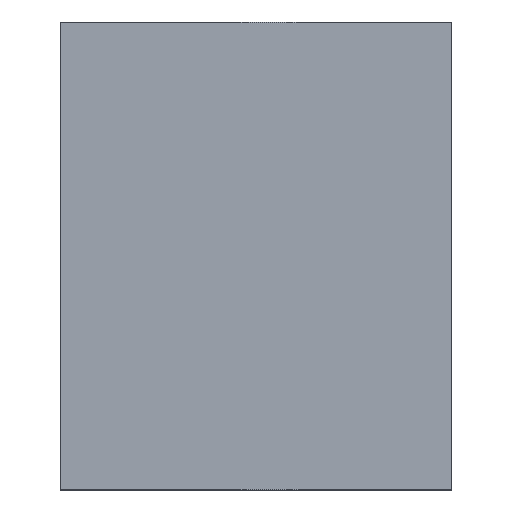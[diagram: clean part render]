
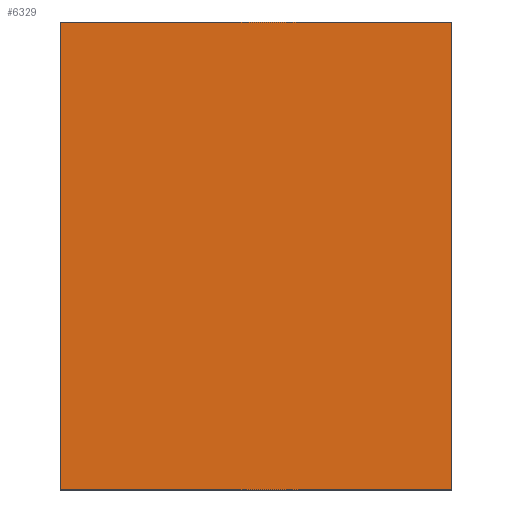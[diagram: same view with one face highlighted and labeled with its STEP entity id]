
A CAD part, front view. The second image highlights one B-rep face of the part: STEP entity #6329.
In plain terms, the highlighted planar face has unit normal (0, -1, 0).
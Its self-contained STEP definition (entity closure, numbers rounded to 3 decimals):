
#32 = PLANE('',#33);
#33 = AXIS2_PLACEMENT_3D('',#34,#35,#36);
#34 = CARTESIAN_POINT('',(0.,137.,0.));
#35 = DIRECTION('',(1.,0.,0.));
#36 = DIRECTION('',(0.,-1.,0.));
#1205 = VERTEX_POINT('',#1206);
#1206 = CARTESIAN_POINT('',(0.,0.,12.));
#1220 = PLANE('',#1221);
#1221 = AXIS2_PLACEMENT_3D('',#1222,#1223,#1224);
#1222 = CARTESIAN_POINT('',(0.,137.,12.));
#1223 = DIRECTION('',(0.,0.,1.));
#1224 = DIRECTION('',(0.,-1.,0.));
#1232 = EDGE_CURVE('',#1233,#1205,#1235,.T.);
#1233 = VERTEX_POINT('',#1234);
#1234 = CARTESIAN_POINT('',(0.,0.,0.));
#1235 = SURFACE_CURVE('',#1236,(#1240,#1247),.PCURVE_S1.);
#1236 = LINE('',#1237,#1238);
#1237 = CARTESIAN_POINT('',(0.,0.,0.));
#1238 = VECTOR('',#1239,1.);
#1239 = DIRECTION('',(0.,0.,1.));
#1240 = PCURVE('',#32,#1241);
#1241 = DEFINITIONAL_REPRESENTATION('',(#1242),#1246);
#1242 = LINE('',#1243,#1244);
#1243 = CARTESIAN_POINT('',(137.,0.));
#1244 = VECTOR('',#1245,1.);
#1245 = DIRECTION('',(0.,-1.));
#1246 = ( GEOMETRIC_REPRESENTATION_CONTEXT(2) 
PARAMETRIC_REPRESENTATION_CONTEXT() REPRESENTATION_CONTEXT('2D SPACE',''
  ) );
#1247 = PCURVE('',#1248,#1253);
#1248 = PLANE('',#1249);
#1249 = AXIS2_PLACEMENT_3D('',#1250,#1251,#1252);
#1250 = CARTESIAN_POINT('',(0.,0.,0.));
#1251 = DIRECTION('',(0.,-1.,0.));
#1252 = DIRECTION('',(1.,0.,0.));
#1253 = DEFINITIONAL_REPRESENTATION('',(#1254),#1258);
#1254 = LINE('',#1255,#1256);
#1255 = CARTESIAN_POINT('',(0.,0.));
#1256 = VECTOR('',#1257,1.);
#1257 = DIRECTION('',(0.,1.));
#1258 = ( GEOMETRIC_REPRESENTATION_CONTEXT(2) 
PARAMETRIC_REPRESENTATION_CONTEXT() REPRESENTATION_CONTEXT('2D SPACE',''
  ) );
#1276 = PLANE('',#1277);
#1277 = AXIS2_PLACEMENT_3D('',#1278,#1279,#1280);
#1278 = CARTESIAN_POINT('',(0.,137.,0.));
#1279 = DIRECTION('',(0.,0.,1.));
#1280 = DIRECTION('',(0.,-1.,0.));
#6241 = PLANE('',#6242);
#6242 = AXIS2_PLACEMENT_3D('',#6243,#6244,#6245);
#6243 = CARTESIAN_POINT('',(10.,137.,0.));
#6244 = DIRECTION('',(1.,0.,0.));
#6245 = DIRECTION('',(0.,-1.,0.));
#6285 = VERTEX_POINT('',#6286);
#6286 = CARTESIAN_POINT('',(10.,0.,0.));
#6309 = EDGE_CURVE('',#1233,#6285,#6310,.T.);
#6310 = SURFACE_CURVE('',#6311,(#6315,#6322),.PCURVE_S1.);
#6311 = LINE('',#6312,#6313);
#6312 = CARTESIAN_POINT('',(0.,0.,0.));
#6313 = VECTOR('',#6314,1.);
#6314 = DIRECTION('',(1.,0.,0.));
#6315 = PCURVE('',#1276,#6316);
#6316 = DEFINITIONAL_REPRESENTATION('',(#6317),#6321);
#6317 = LINE('',#6318,#6319);
#6318 = CARTESIAN_POINT('',(137.,0.));
#6319 = VECTOR('',#6320,1.);
#6320 = DIRECTION('',(0.,1.));
#6321 = ( GEOMETRIC_REPRESENTATION_CONTEXT(2) 
PARAMETRIC_REPRESENTATION_CONTEXT() REPRESENTATION_CONTEXT('2D SPACE',''
  ) );
#6322 = PCURVE('',#1248,#6323);
#6323 = DEFINITIONAL_REPRESENTATION('',(#6324),#6328);
#6324 = LINE('',#6325,#6326);
#6325 = CARTESIAN_POINT('',(0.,0.));
#6326 = VECTOR('',#6327,1.);
#6327 = DIRECTION('',(1.,0.));
#6328 = ( GEOMETRIC_REPRESENTATION_CONTEXT(2) 
PARAMETRIC_REPRESENTATION_CONTEXT() REPRESENTATION_CONTEXT('2D SPACE',''
  ) );
#6329 = ADVANCED_FACE('',(#6330),#1248,.T.);
#6330 = FACE_BOUND('',#6331,.T.);
#6331 = EDGE_LOOP('',(#6332,#6333,#6334,#6357));
#6332 = ORIENTED_EDGE('',*,*,#1232,.F.);
#6333 = ORIENTED_EDGE('',*,*,#6309,.T.);
#6334 = ORIENTED_EDGE('',*,*,#6335,.T.);
#6335 = EDGE_CURVE('',#6285,#6336,#6338,.T.);
#6336 = VERTEX_POINT('',#6337);
#6337 = CARTESIAN_POINT('',(10.,0.,12.));
#6338 = SURFACE_CURVE('',#6339,(#6343,#6350),.PCURVE_S1.);
#6339 = LINE('',#6340,#6341);
#6340 = CARTESIAN_POINT('',(10.,0.,0.));
#6341 = VECTOR('',#6342,1.);
#6342 = DIRECTION('',(0.,0.,1.));
#6343 = PCURVE('',#1248,#6344);
#6344 = DEFINITIONAL_REPRESENTATION('',(#6345),#6349);
#6345 = LINE('',#6346,#6347);
#6346 = CARTESIAN_POINT('',(10.,0.));
#6347 = VECTOR('',#6348,1.);
#6348 = DIRECTION('',(0.,1.));
#6349 = ( GEOMETRIC_REPRESENTATION_CONTEXT(2) 
PARAMETRIC_REPRESENTATION_CONTEXT() REPRESENTATION_CONTEXT('2D SPACE',''
  ) );
#6350 = PCURVE('',#6241,#6351);
#6351 = DEFINITIONAL_REPRESENTATION('',(#6352),#6356);
#6352 = LINE('',#6353,#6354);
#6353 = CARTESIAN_POINT('',(137.,0.));
#6354 = VECTOR('',#6355,1.);
#6355 = DIRECTION('',(0.,-1.));
#6356 = ( GEOMETRIC_REPRESENTATION_CONTEXT(2) 
PARAMETRIC_REPRESENTATION_CONTEXT() REPRESENTATION_CONTEXT('2D SPACE',''
  ) );
#6357 = ORIENTED_EDGE('',*,*,#6358,.F.);
#6358 = EDGE_CURVE('',#1205,#6336,#6359,.T.);
#6359 = SURFACE_CURVE('',#6360,(#6364,#6371),.PCURVE_S1.);
#6360 = LINE('',#6361,#6362);
#6361 = CARTESIAN_POINT('',(0.,0.,12.));
#6362 = VECTOR('',#6363,1.);
#6363 = DIRECTION('',(1.,0.,0.));
#6364 = PCURVE('',#1248,#6365);
#6365 = DEFINITIONAL_REPRESENTATION('',(#6366),#6370);
#6366 = LINE('',#6367,#6368);
#6367 = CARTESIAN_POINT('',(0.,12.));
#6368 = VECTOR('',#6369,1.);
#6369 = DIRECTION('',(1.,0.));
#6370 = ( GEOMETRIC_REPRESENTATION_CONTEXT(2) 
PARAMETRIC_REPRESENTATION_CONTEXT() REPRESENTATION_CONTEXT('2D SPACE',''
  ) );
#6371 = PCURVE('',#1220,#6372);
#6372 = DEFINITIONAL_REPRESENTATION('',(#6373),#6377);
#6373 = LINE('',#6374,#6375);
#6374 = CARTESIAN_POINT('',(137.,0.));
#6375 = VECTOR('',#6376,1.);
#6376 = DIRECTION('',(0.,1.));
#6377 = ( GEOMETRIC_REPRESENTATION_CONTEXT(2) 
PARAMETRIC_REPRESENTATION_CONTEXT() REPRESENTATION_CONTEXT('2D SPACE',''
  ) );
